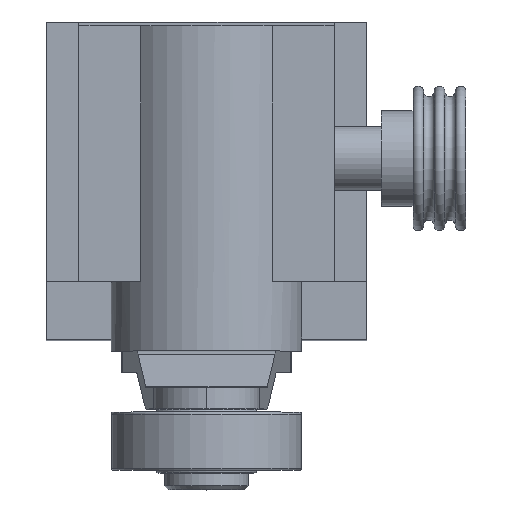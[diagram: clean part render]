
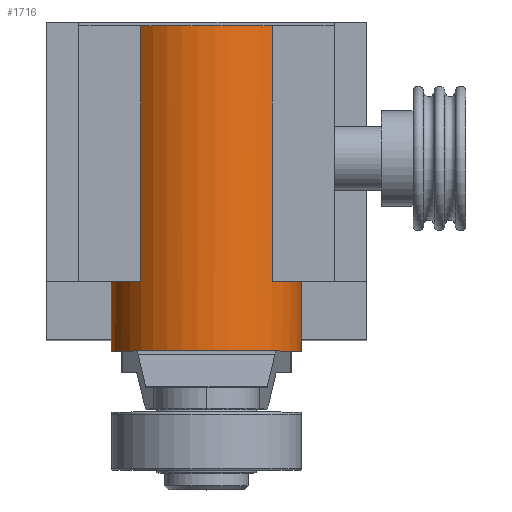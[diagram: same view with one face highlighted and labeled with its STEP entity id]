
A CAD part, top view. The second image highlights one B-rep face of the part: STEP entity #1716.
In plain terms, the highlighted cylindrical face has radius 9 mm (diameter 18 mm), a full revolution.
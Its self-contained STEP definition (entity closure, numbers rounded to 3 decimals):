
#1502=CARTESIAN_POINT('',(4.975,-9.5,63.));
#1503=VERTEX_POINT('',#1502);
#1504=CARTESIAN_POINT('',(-4.975,-9.5,63.));
#1505=VERTEX_POINT('',#1504);
#1506=CARTESIAN_POINT('',(0.,-9.5,70.5));
#1507=DIRECTION('',(0.0,1.0,0.0));
#1508=DIRECTION('',(-1.0,0.0,0.0));
#1509=AXIS2_PLACEMENT_3D('',#1506,#1507,#1508);
#1510=CIRCLE('',#1509,9.0);
#1511=EDGE_CURVE('',#1503,#1505,#1510,.T.);
#1535=CARTESIAN_POINT('',(-6.225,-9.5,77.0));
#1536=VERTEX_POINT('',#1535);
#1537=CARTESIAN_POINT('',(0.,-9.5,70.5));
#1538=DIRECTION('',(0.0,1.0,0.0));
#1539=DIRECTION('',(-1.0,0.0,0.0));
#1540=AXIS2_PLACEMENT_3D('',#1537,#1538,#1539);
#1541=CIRCLE('',#1540,9.0);
#1542=EDGE_CURVE('',#1505,#1536,#1541,.T.);
#1582=CARTESIAN_POINT('',(6.225,-9.5,77.0));
#1583=VERTEX_POINT('',#1582);
#1590=CARTESIAN_POINT('',(0.,-9.5,70.5));
#1591=DIRECTION('',(0.0,1.0,0.0));
#1592=DIRECTION('',(-1.0,0.0,0.0));
#1593=AXIS2_PLACEMENT_3D('',#1590,#1591,#1592);
#1594=CIRCLE('',#1593,9.0);
#1595=EDGE_CURVE('',#1583,#1503,#1594,.T.);
#1655=CARTESIAN_POINT('',(-6.225,14.6,77.));
#1656=VERTEX_POINT('',#1655);
#1663=CARTESIAN_POINT('',(6.225,14.6,77.));
#1664=VERTEX_POINT('',#1663);
#1665=CARTESIAN_POINT('',(0.,14.6,70.5));
#1666=DIRECTION('',(0.0,-1.0,0.0));
#1667=DIRECTION('',(-1.0,0.0,0.0));
#1668=AXIS2_PLACEMENT_3D('',#1665,#1666,#1667);
#1669=CIRCLE('',#1668,9.0);
#1670=EDGE_CURVE('',#1664,#1656,#1669,.T.);
#1682=CARTESIAN_POINT('',(0.,-9.5,70.5));
#1683=DIRECTION('',(0.0,-1.0,0.0));
#1684=DIRECTION('',(-1.0,0.0,0.0));
#1685=AXIS2_PLACEMENT_3D('',#1682,#1683,#1684);
#1686=CYLINDRICAL_SURFACE('',#1685,9.0);
#1687=CARTESIAN_POINT('',(6.225,14.6,77.));
#1688=DIRECTION('',(0.0,-1.0,0.0));
#1689=VECTOR('',#1688,24.1);
#1690=LINE('',#1687,#1689);
#1691=EDGE_CURVE('',#1664,#1583,#1690,.T.);
#1692=ORIENTED_EDGE('',*,*,#1691,.F.);
#1693=ORIENTED_EDGE('',*,*,#1670,.T.);
#1694=CARTESIAN_POINT('',(-6.225,-9.5,77.));
#1695=DIRECTION('',(0.0,1.0,0.0));
#1696=VECTOR('',#1695,24.1);
#1697=LINE('',#1694,#1696);
#1698=EDGE_CURVE('',#1536,#1656,#1697,.T.);
#1699=ORIENTED_EDGE('',*,*,#1698,.F.);
#1700=ORIENTED_EDGE('',*,*,#1542,.F.);
#1701=ORIENTED_EDGE('',*,*,#1511,.F.);
#1702=ORIENTED_EDGE('',*,*,#1595,.F.);
#1703=EDGE_LOOP('',(#1692,#1693,#1699,#1700,#1701,#1702));
#1704=FACE_OUTER_BOUND('',#1703,.T.);
#1705=CARTESIAN_POINT('',(9.,-16.1,70.5));
#1706=VERTEX_POINT('',#1705);
#1707=CARTESIAN_POINT('',(0.,-16.1,70.5));
#1708=DIRECTION('',(0.0,1.0,0.0));
#1709=DIRECTION('',(-1.0,0.0,0.0));
#1710=AXIS2_PLACEMENT_3D('',#1707,#1708,#1709);
#1711=CIRCLE('',#1710,9.0);
#1712=EDGE_CURVE('',#1706,#1706,#1711,.T.);
#1713=ORIENTED_EDGE('',*,*,#1712,.T.);
#1714=EDGE_LOOP('',(#1713));
#1715=FACE_BOUND('',#1714,.T.);
#1716=ADVANCED_FACE('',(#1704,#1715),#1686,.T.);
